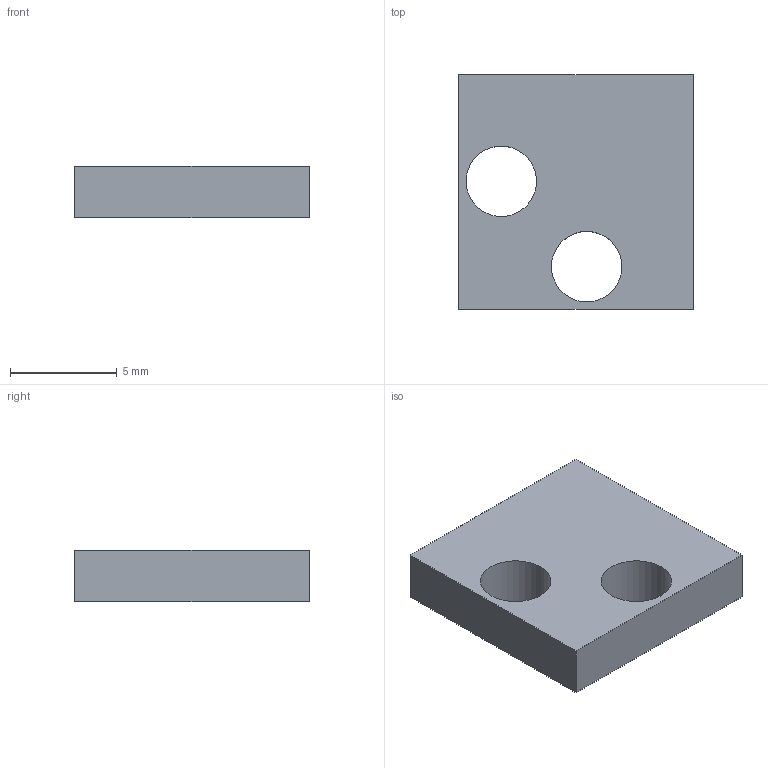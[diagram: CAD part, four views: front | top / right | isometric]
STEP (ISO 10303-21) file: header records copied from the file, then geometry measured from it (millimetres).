
FILE_DESCRIPTION(('Open CASCADE Model'),'2;1');
FILE_NAME('Open CASCADE Shape Model','2026-10-08T14:25:45',('Author'),( 'Open CASCADE'),'Open CASCADE STEP processor 7.9','Open CASCADE 7.9' ,'Unknown');
FILE_SCHEMA(('AUTOMOTIVE_DESIGN { 1 0 10303 214 1 1 1 1 }'));
Length unit declared in the file: millimetre
Products named in the file (1): Open CASCADE STEP translator 7.9 2
Bounding box: 11 x 11 x 2.4 mm (x, y, z)
Volume: 249.3 mm3; surface area: 363.2 mm2
Topology: 1 solids, 1 shells, 8 faces, 18 edges, 12 vertices
Faces by surface type: plane 6, cylinder 2
Full cylindrical faces by diameter (mm): 3.3 x2
Entity records: 478 total; most frequent: DIRECTION 76, CARTESIAN_POINT 75, LINE 46, VECTOR 46, ORIENTED_EDGE 36, PCURVE 36, DEFINITIONAL_REPRESENTATION 36, EDGE_CURVE 18
